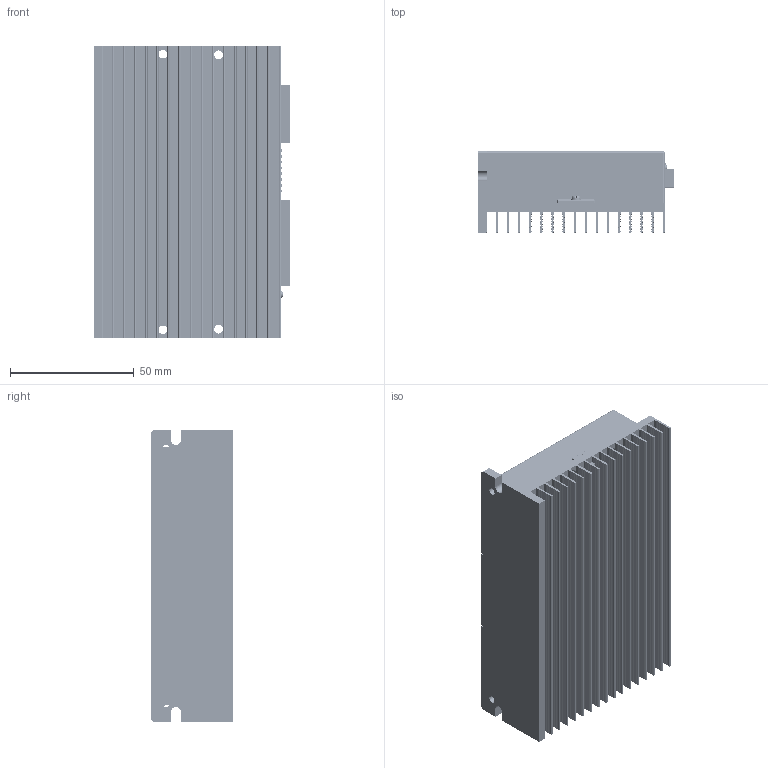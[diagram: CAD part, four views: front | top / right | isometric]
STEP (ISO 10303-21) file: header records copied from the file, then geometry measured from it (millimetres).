
FILE_DESCRIPTION((''),'2;1');
FILE_NAME('2NS556','2025-07-08T17:33:05',('Administrator'),(''),'CREO PARAMETRIC BY PTC INC, 2018400','CREO PARAMETRIC BY PTC INC, 2018400','');
FILE_SCHEMA(('CONFIG_CONTROL_DESIGN'));
Products named in the file (1): 2NS556
Bounding box: 78.98 x 33 x 118 mm (x, y, z)
Volume: 211378.9 mm3; surface area: 74281.7 mm2
Topology: 1 solids, 1 shells, 20863 faces, 58933 edges, 39254 vertices
Faces by surface type: plane 20608, cylinder 137, extrusion 76, torus 16, bspline 16, sphere 10
Entity records: 663284 total; most frequent: CARTESIAN_POINT 122147, ORIENTED_EDGE 117846, DIRECTION 100661, EDGE_CURVE 58923, VECTOR 58427, LINE 58351, VERTEX_POINT 39254, EDGE_LOOP 22077
